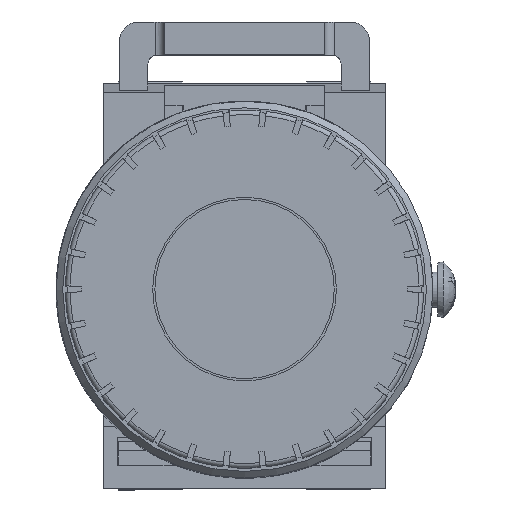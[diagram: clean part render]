
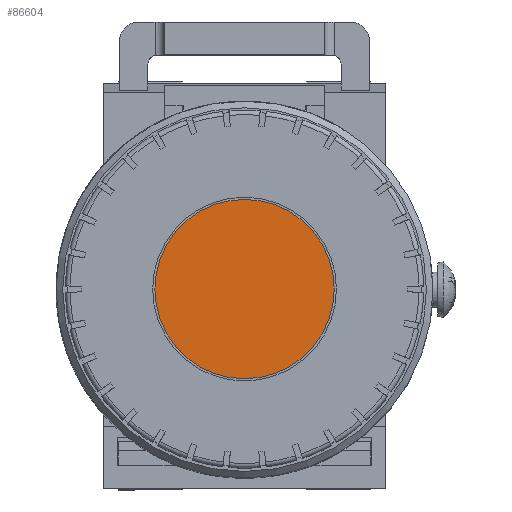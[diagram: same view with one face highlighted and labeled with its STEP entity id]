
A CAD part, top view. The second image highlights one B-rep face of the part: STEP entity #86604.
In plain terms, the highlighted planar face has unit normal (0, 0, 1).
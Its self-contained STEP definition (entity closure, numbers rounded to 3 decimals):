
#86588=CARTESIAN_POINT('',(15.0,21.,103.5));
#86589=DIRECTION('',(0.0,0.0,-1.0));
#86590=DIRECTION('',(-1.0,0.0,0.0));
#86591=AXIS2_PLACEMENT_3D('',#86588,#86589,#86590);
#86592=PLANE('',#86591);
#86593=CARTESIAN_POINT('',(24.519,21.,103.5));
#86594=VERTEX_POINT('',#86593);
#86595=CARTESIAN_POINT('',(15.0,21.,103.5));
#86596=DIRECTION('',(0.0,0.0,1.0));
#86597=DIRECTION('',(-1.0,0.0,0.0));
#86598=AXIS2_PLACEMENT_3D('',#86595,#86596,#86597);
#86599=CIRCLE('',#86598,9.519);
#86600=EDGE_CURVE('',#86594,#86594,#86599,.T.);
#86601=ORIENTED_EDGE('',*,*,#86600,.T.);
#86602=EDGE_LOOP('',(#86601));
#86603=FACE_OUTER_BOUND('',#86602,.T.);
#86604=ADVANCED_FACE('',(#86603),#86592,.F.);
